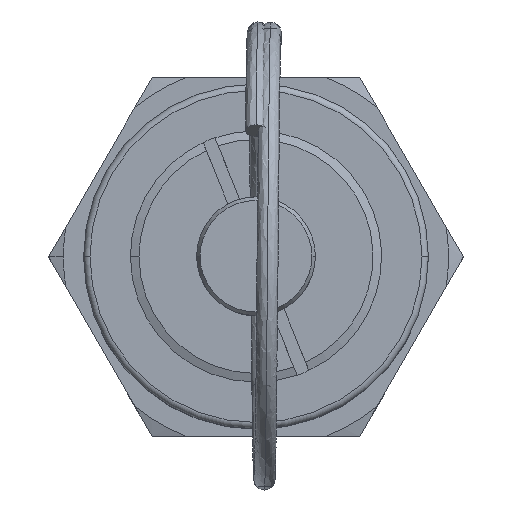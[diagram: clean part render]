
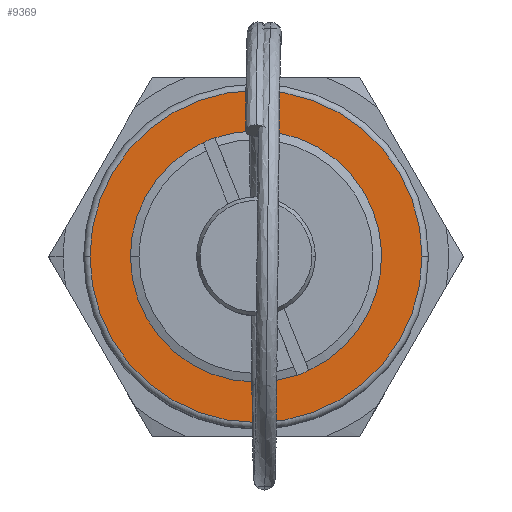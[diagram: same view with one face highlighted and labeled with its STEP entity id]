
A CAD part, top view. The second image highlights one B-rep face of the part: STEP entity #9369.
In plain terms, the highlighted planar face has unit normal (0, 0, 1).
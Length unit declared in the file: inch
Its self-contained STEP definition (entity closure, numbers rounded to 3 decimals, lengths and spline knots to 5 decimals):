
#80 = CARTESIAN_POINT ( 'NONE',  ( 0., 0., 0. ) ) ;
#345 = VERTEX_POINT ( 'NONE', #8713 ) ;
#447 = CARTESIAN_POINT ( 'NONE',  ( 0., 0., 0. ) ) ;
#605 = CIRCLE ( 'NONE', #6415, 0.19669 ) ;
#665 = VERTEX_POINT ( 'NONE', #4827 ) ;
#703 = ORIENTED_EDGE ( 'NONE', *, *, #8055, .T. ) ;
#843 = ORIENTED_EDGE ( 'NONE', *, *, #6310, .T. ) ;
#1066 = DIRECTION ( 'NONE',  ( 0., 0., 1. ) ) ;
#1134 = DIRECTION ( 'NONE',  ( -1., 0., 0. ) ) ;
#1202 = AXIS2_PLACEMENT_3D ( 'NONE', #4045, #2983, #1571 ) ;
#1316 = CARTESIAN_POINT ( 'NONE',  ( -0.26, 0., 0. ) ) ;
#1361 = EDGE_CURVE ( 'NONE', #3332, #10112, #605, .T. ) ;
#1428 = AXIS2_PLACEMENT_3D ( 'NONE', #7432, #1066, #5990 ) ;
#1571 = DIRECTION ( 'NONE',  ( -1., 0., 0. ) ) ;
#1587 = DIRECTION ( 'NONE',  ( -1., 0., 0. ) ) ;
#1610 = EDGE_LOOP ( 'NONE', ( #3293, #843 ) ) ;
#1641 = CARTESIAN_POINT ( 'NONE',  ( 0., 0., 0. ) ) ;
#1646 = ORIENTED_EDGE ( 'NONE', *, *, #7146, .T. ) ;
#1798 = DIRECTION ( 'NONE',  ( 0., 0., -1. ) ) ;
#2065 = DIRECTION ( 'NONE',  ( 0., 0., -1. ) ) ;
#2104 = EDGE_CURVE ( 'NONE', #9646, #3332, #6123, .T. ) ;
#2235 = EDGE_LOOP ( 'NONE', ( #6434, #6490, #1646, #9544, #703 ) ) ;
#2242 = DIRECTION ( 'NONE',  ( -1., 0., 0. ) ) ;
#2290 = DIRECTION ( 'NONE',  ( -1., 0., 0. ) ) ;
#2378 = PLANE ( 'NONE',  #9989 ) ;
#2859 = CIRCLE ( 'NONE', #1202, 0.19669 ) ;
#2871 = EDGE_CURVE ( 'NONE', #9846, #9550, #9152, .T. ) ;
#2983 = DIRECTION ( 'NONE',  ( 0., 0., -1. ) ) ;
#3213 = DIRECTION ( 'NONE',  ( 0., 0., 1. ) ) ;
#3293 = ORIENTED_EDGE ( 'NONE', *, *, #2871, .T. ) ;
#3332 = VERTEX_POINT ( 'NONE', #9667 ) ;
#3477 = CARTESIAN_POINT ( 'NONE',  ( -0.08286, 0.17838, 0. ) ) ;
#3536 = EDGE_CURVE ( 'NONE', #345, #665, #5424, .T. ) ;
#3577 = CARTESIAN_POINT ( 'NONE',  ( 0.26, 0., 0. ) ) ;
#3609 = AXIS2_PLACEMENT_3D ( 'NONE', #5450, #5342, #2242 ) ;
#4045 = CARTESIAN_POINT ( 'NONE',  ( 0., 0., 0. ) ) ;
#4061 = AXIS2_PLACEMENT_3D ( 'NONE', #80, #3213, #1587 ) ;
#4088 = AXIS2_PLACEMENT_3D ( 'NONE', #9601, #5658, #2290 ) ;
#4107 = CARTESIAN_POINT ( 'NONE',  ( 0.08286, -0.17838, 0. ) ) ;
#4728 = AXIS2_PLACEMENT_3D ( 'NONE', #447, #2065, #5271 ) ;
#4827 = CARTESIAN_POINT ( 'NONE',  ( -0.19669, 0., 0. ) ) ;
#5008 = DIRECTION ( 'NONE',  ( -1., 0., 0. ) ) ;
#5271 = DIRECTION ( 'NONE',  ( -1., 0., 0. ) ) ;
#5342 = DIRECTION ( 'NONE',  ( 0., 0., -1. ) ) ;
#5424 = CIRCLE ( 'NONE', #4088, 0.19669 ) ;
#5450 = CARTESIAN_POINT ( 'NONE',  ( 0., 0., 0. ) ) ;
#5581 = FACE_BOUND ( 'NONE', #2235, .T. ) ;
#5658 = DIRECTION ( 'NONE',  ( 0., 0., -1. ) ) ;
#5741 = CIRCLE ( 'NONE', #4061, 0.26 ) ;
#5990 = DIRECTION ( 'NONE',  ( -1., 0., 0. ) ) ;
#6123 = CIRCLE ( 'NONE', #3609, 0.19669 ) ;
#6310 = EDGE_CURVE ( 'NONE', #9550, #9846, #5741, .T. ) ;
#6415 = AXIS2_PLACEMENT_3D ( 'NONE', #8329, #9217, #1134 ) ;
#6434 = ORIENTED_EDGE ( 'NONE', *, *, #2104, .T. ) ;
#6490 = ORIENTED_EDGE ( 'NONE', *, *, #1361, .T. ) ;
#7146 = EDGE_CURVE ( 'NONE', #10112, #345, #2859, .T. ) ;
#7432 = CARTESIAN_POINT ( 'NONE',  ( 0., 0., 0. ) ) ;
#8055 = EDGE_CURVE ( 'NONE', #665, #9646, #10089, .T. ) ;
#8329 = CARTESIAN_POINT ( 'NONE',  ( 0., 0., 0. ) ) ;
#8713 = CARTESIAN_POINT ( 'NONE',  ( 0.06431, -0.18587, 0. ) ) ;
#8896 = FACE_OUTER_BOUND ( 'NONE', #1610, .T. ) ;
#9152 = CIRCLE ( 'NONE', #1428, 0.26 ) ;
#9217 = DIRECTION ( 'NONE',  ( 0., 0., -1. ) ) ;
#9369 = ADVANCED_FACE ( 'NONE', ( #8896, #5581 ), #2378, .F. ) ;
#9544 = ORIENTED_EDGE ( 'NONE', *, *, #3536, .T. ) ;
#9550 = VERTEX_POINT ( 'NONE', #3577 ) ;
#9601 = CARTESIAN_POINT ( 'NONE',  ( 0., 0., 0. ) ) ;
#9646 = VERTEX_POINT ( 'NONE', #3477 ) ;
#9667 = CARTESIAN_POINT ( 'NONE',  ( -0.06431, 0.18587, 0. ) ) ;
#9846 = VERTEX_POINT ( 'NONE', #1316 ) ;
#9989 = AXIS2_PLACEMENT_3D ( 'NONE', #1641, #1798, #5008 ) ;
#10089 = CIRCLE ( 'NONE', #4728, 0.19669 ) ;
#10112 = VERTEX_POINT ( 'NONE', #4107 ) ;
